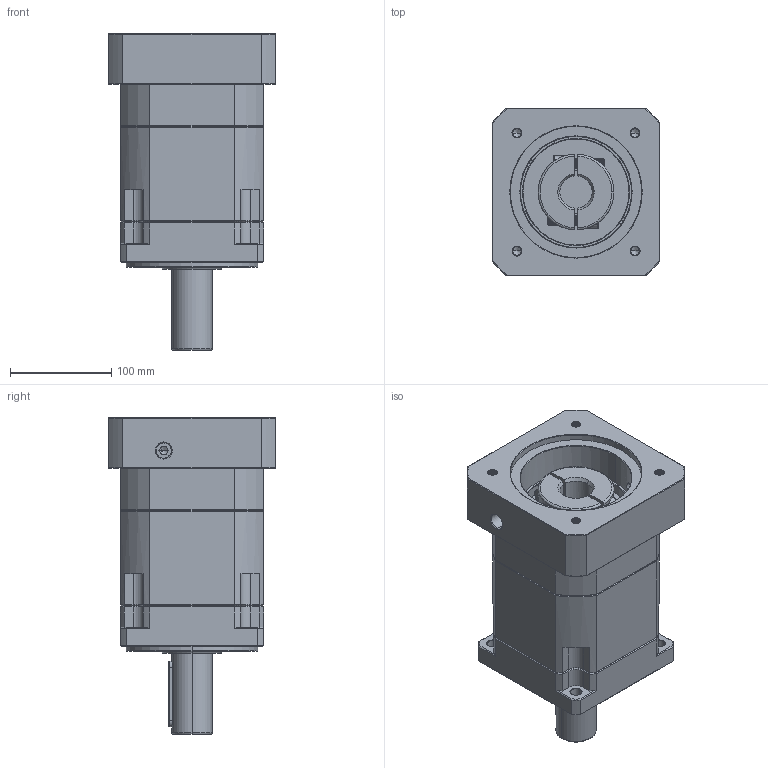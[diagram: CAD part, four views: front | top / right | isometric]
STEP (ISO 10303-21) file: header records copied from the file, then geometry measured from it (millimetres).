
FILE_DESCRIPTION (( 'STEP AP214' ), '1' );
FILE_NAME ('ZB142A-D40-L2-P2-32-130-165-M10.step', '2023-09-01T11:43:01', ( '' ), ( '' ), 'SwSTEP 2.0', 'SolidWorks 2016', '' );
FILE_SCHEMA (( 'AUTOMOTIVE_DESIGN' ));
Length unit declared in the file: millimetre
Products named in the file (1): ZB142A-D40-L2-P2-32-130-165-M10
Bounding box: 166 x 166 x 313.2 mm (x, y, z)
Volume: 4335624 mm3; surface area: 324669.7 mm2
Topology: 6 solids, 6 shells, 2320 faces, 6216 edges, 4000 vertices
Faces by surface type: plane 1103, cylinder 432, bspline 411, cone 352, torus 22
Entity records: 129432 total; most frequent: CARTESIAN_POINT 49229, ORIENTED_EDGE 12372, DIRECTION 9802, EDGE_CURVE 6186, VERTEX_POINT 4000, LINE 3906, VECTOR 3906, AXIS2_PLACEMENT_3D 2948
